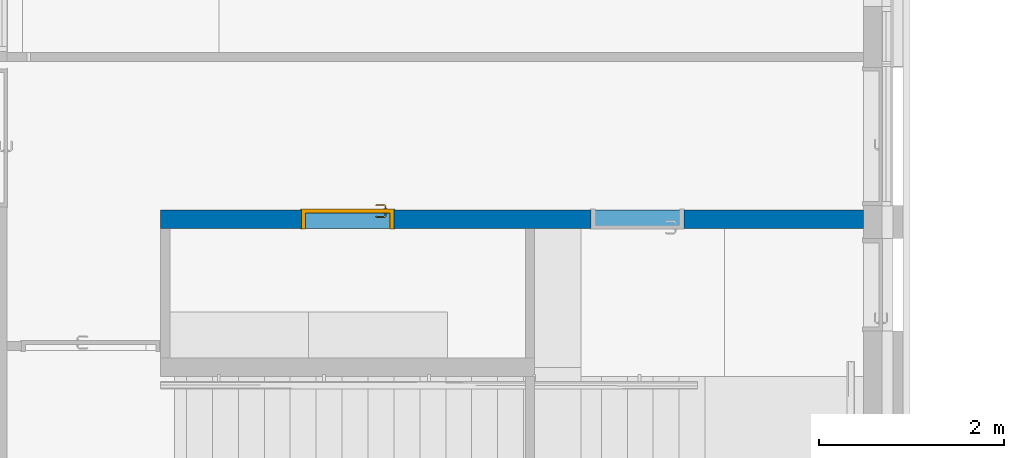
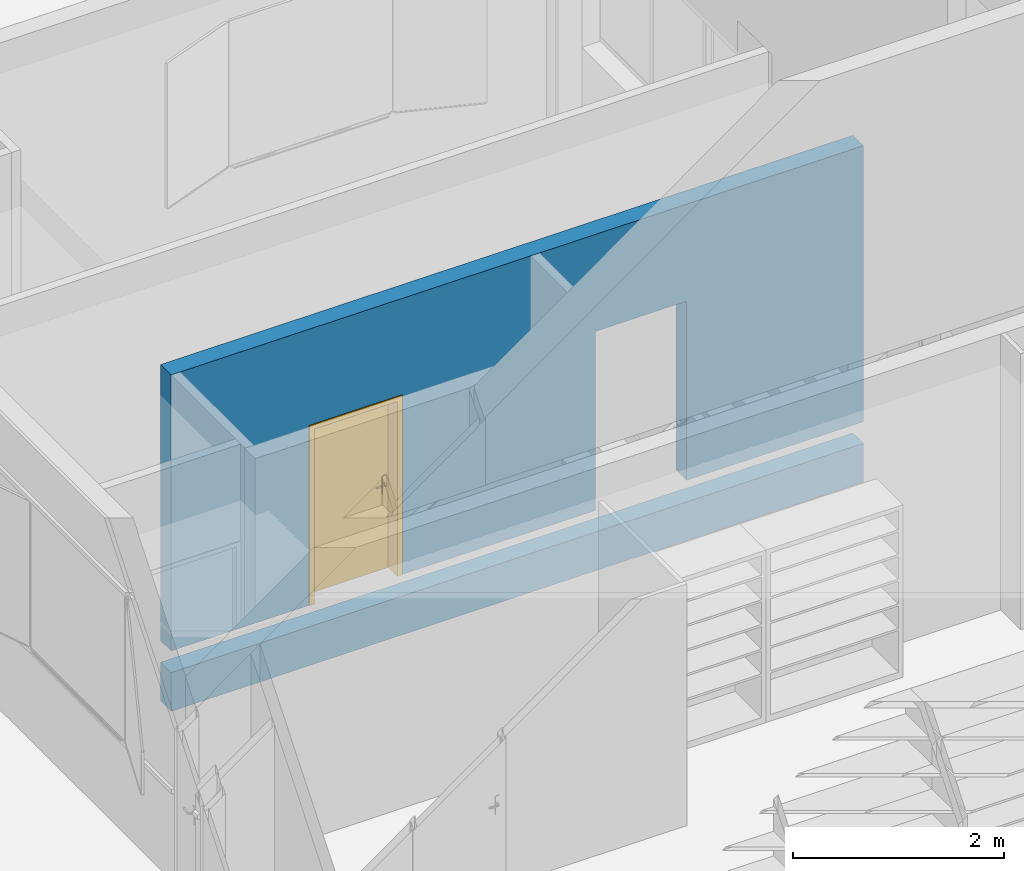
# One storey, part 77 of 137: 1 door, 1 wall, 2 openings.
"""IFC2X3 building model written with IfcOpenShell, lengths in centimetres."""

import ifcopenshell
import ifcopenshell.guid

model = None  # the IFC model being written
_history = None  # IfcOwnerHistory: only IFC2X3 demands one
_inside = {}  # id of a spatial element -> (the spatial element, [elements in it])
_under = {}  # id of a project, library or spatial element -> (it, [spatial elements below it])
_declared = {}  # id of a project -> (the project, [libraries it declares])
_typed = {}  # id of a type object -> (the type object, [elements of that type])
_made_of = {}  # id of a material, layer set ... -> (it, [elements and type objects made of it])


def new_model(schema):
    """Start an empty IFC model of exactly this schema.

    Asked for "IFC4X3", IfcOpenShell would pick the latest addendum, in which some entities
    have other attributes; the version numbers below select the first issue.
    IFC2X3 requires an IfcOwnerHistory on every rooted entity: one is made here for all.
    """
    global model, _history
    if schema == "IFC4X3":
        model = ifcopenshell.file(schema_version=(4, 3, 0, 0))
    else:
        model = ifcopenshell.file(schema=schema)
    _inside.clear()
    _under.clear()
    _declared.clear()
    _typed.clear()
    _made_of.clear()
    _history = None
    if model.schema == "IFC2X3":
        org = make("IfcOrganization", Name="unknown")
        user = make(
            "IfcPersonAndOrganization",
            ThePerson=make("IfcPerson", FamilyName="unknown"),
            TheOrganization=org,
        )
        app = make(
            "IfcApplication",
            ApplicationDeveloper=org,
            Version="unknown",
            ApplicationFullName="unknown",
            ApplicationIdentifier="unknown",
        )
        _history = make(
            "IfcOwnerHistory",
            OwningUser=user,
            OwningApplication=app,
            ChangeAction="ADDED",
            CreationDate=0,
        )
    return model


def make(cls, **values):
    """One entity of the class cls with the attributes given. An attribute that is None is left unset."""
    return model.create_entity(
        cls, **{name: value for name, value in values.items() if value is not None}
    )


def entity(cls, *values):
    """Any entity or typed value of the class cls, its attributes in the order of the schema. None: left unset."""
    e = model.create_entity(cls)
    for i, value in enumerate(values):
        if value is not None:
            e[i] = value
    return e


def rooted(cls, **values):
    """An entity with a GlobalId (a new one), such as an element, a storey or a relation."""
    return make(cls, GlobalId=ifcopenshell.guid.new(), OwnerHistory=_history, **values)


def si_unit(unit_type, name, prefix=None):
    """IfcSIUnit, for example si_unit("LENGTHUNIT", "METRE", prefix="MILLI")."""
    return make("IfcSIUnit", UnitType=unit_type, Prefix=prefix, Name=name)


def converted_unit(unit_type, name, factor, base, dimensions=None, offset=None):
    """IfcConversionBasedUnit, such as the inch: factor (a typed value) times the base unit."""
    return make(
        "IfcConversionBasedUnit"
        if offset is None
        else "IfcConversionBasedUnitWithOffset",
        ConversionOffset=offset,
        Dimensions=None
        if dimensions is None
        else entity("IfcDimensionalExponents", *dimensions),
        UnitType=unit_type,
        Name=name,
        ConversionFactor=make(
            "IfcMeasureWithUnit", ValueComponent=factor, UnitComponent=base
        ),
    )


def derived_unit(unit_type, elements):
    """IfcDerivedUnit: a product of units, each with its exponent."""
    return make(
        "IfcDerivedUnit",
        Elements=[
            make("IfcDerivedUnitElement", Unit=unit, Exponent=power)
            for unit, power in elements
        ],
        UnitType=unit_type,
    )


def assignment(units):
    """IfcUnitAssignment: the units of a project."""
    return None if units is None else make("IfcUnitAssignment", Units=units)


def point(xyz):
    """IfcCartesianPoint."""
    return None if xyz is None else make("IfcCartesianPoint", Coordinates=xyz)


def direction(xyz):
    """IfcDirection."""
    return None if xyz is None else make("IfcDirection", DirectionRatios=xyz)


def frame(location, z_axis=None, x_axis=None):
    """IfcAxis2Placement3D, a coordinate frame: its origin and axes. An axis left out is left unset."""
    return make(
        "IfcAxis2Placement3D",
        Location=point(location),
        Axis=direction(z_axis),
        RefDirection=direction(x_axis),
    )


def frame_2d(location, x_axis=None):
    """IfcAxis2Placement2D, a coordinate frame in the plane: its origin and x axis."""
    return make(
        "IfcAxis2Placement2D", Location=point(location), RefDirection=direction(x_axis)
    )


def origin():
    """The frame at (0, 0, 0) with its axes left unset."""
    return frame((0.0, 0.0, 0.0))


def place(relative_to, where):
    """IfcLocalPlacement: puts the frame where relative to a parent placement (None: the world)."""
    return make(
        "IfcLocalPlacement", PlacementRelTo=relative_to, RelativePlacement=where
    )


def context(
    kind, dimensions, precision=None, world=None, true_north=None, identifier=None
):
    """IfcGeometricRepresentationContext, for example the 3D "Model" context."""
    return make(
        "IfcGeometricRepresentationContext",
        ContextIdentifier=identifier,
        ContextType=kind,
        CoordinateSpaceDimension=dimensions,
        Precision=precision,
        WorldCoordinateSystem=world,
        TrueNorth=true_north,
    )


def subcontext(parent, identifier, kind, view, scale=None):
    """IfcGeometricRepresentationSubContext, for example "Body" below "Model"."""
    return make(
        "IfcGeometricRepresentationSubContext",
        ContextIdentifier=identifier,
        ContextType=kind,
        ParentContext=parent,
        TargetScale=scale,
        TargetView=view,
    )


def project(units=None, contexts=None):
    """IfcProject with its units and contexts."""
    return rooted(
        "IfcProject",
        Name="project",
        RepresentationContexts=contexts,
        UnitsInContext=assignment(units),
    )


def spatial(cls, under=None, at=None, **own):
    """A site, building, storey or space (cls), placed at a placement, below another one or the project."""
    s = rooted(cls, ObjectPlacement=at, **own)
    if under is not None:
        _under.setdefault(under.id(), (under, []))[1].append(s)
    return s


def profile(cls, at=None, kind="AREA", **sizes):
    """A parametric profile (cls). Its sizes go by their IFC names, for example OverallWidth=200.0."""
    return make(cls, ProfileType=kind, Position=at, **sizes)


def rectangle(**sizes):
    """IfcRectangleProfileDef."""
    return profile("IfcRectangleProfileDef", **sizes)


def extrude(swept, where, along, depth):
    """IfcExtrudedAreaSolid: the profile swept, set in the frame where, extruded along a direction by depth."""
    return make(
        "IfcExtrudedAreaSolid",
        SweptArea=swept,
        Position=where,
        ExtrudedDirection=direction(along),
        Depth=depth,
    )


def faces_of(points, faces, orient=None, outer=None):
    """IfcFace entities. A face is a list of loops; a loop is a list of indices into points, from 0.

    orient and outer hold one flag for each loop. By default every Orientation is true, the
    first loop of a face is its IfcFaceOuterBound and the others are IfcFaceBound.
    """
    made = []
    for i, loops in enumerate(faces):
        bounds = []
        for j, loop in enumerate(loops):
            is_outer = j == 0 if outer is None else outer[i][j]
            bounds.append(
                make(
                    "IfcFaceOuterBound" if is_outer else "IfcFaceBound",
                    Bound=make("IfcPolyLoop", Polygon=[points[k] for k in loop]),
                    Orientation=True if orient is None else orient[i][j],
                )
            )
        made.append(make("IfcFace", Bounds=bounds))
    return made


def faceted_brep(points, faces, orient=None, outer=None, voids=None):
    """IfcFacetedBrep: a solid bounded by flat faces; with voids (closed shells), ...WithVoids."""
    shared = [point(p) for p in points]
    hull = make("IfcClosedShell", CfsFaces=faces_of(shared, faces, orient, outer))
    if voids is None:
        return make("IfcFacetedBrep", Outer=hull)
    return make(
        "IfcFacetedBrepWithVoids",
        Outer=hull,
        Voids=[
            make(cls, CfsFaces=faces_of(shared, fs, o, b)) for cls, fs, o, b in voids
        ],
    )


def shape(context_of_items, identifier, shape_type, items):
    """IfcShapeRepresentation: the items that make up one representation, for example the "Body"."""
    return make(
        "IfcShapeRepresentation",
        ContextOfItems=context_of_items,
        RepresentationIdentifier=identifier,
        RepresentationType=shape_type,
        Items=items,
    )


def source(mapping_origin, context_of_items, identifier, shape_type, items):
    """IfcRepresentationMap: a shape defined once, which mapped items show again and again."""
    return make(
        "IfcRepresentationMap",
        MappingOrigin=mapping_origin,
        MappedRepresentation=shape(context_of_items, identifier, shape_type, items),
    )


def transform(
    local_origin,
    x_axis=None,
    y_axis=None,
    z_axis=None,
    scale=None,
    scale2=None,
    scale3=None,
    uniform=True,
):
    """IfcCartesianTransformationOperator3D, or its non-uniform kind. x_axis, y_axis, z_axis: its Axis1, 2, 3."""
    if uniform:
        return make(
            "IfcCartesianTransformationOperator3D",
            Axis1=direction(x_axis),
            Axis2=direction(y_axis),
            LocalOrigin=point(local_origin),
            Scale=scale,
            Axis3=direction(z_axis),
        )
    return make(
        "IfcCartesianTransformationOperator3DnonUniform",
        Axis1=direction(x_axis),
        Axis2=direction(y_axis),
        LocalOrigin=point(local_origin),
        Scale=scale,
        Axis3=direction(z_axis),
        Scale2=scale2,
        Scale3=scale3,
    )


def mapped(mapping_source, mapping_target):
    """IfcMappedItem: shows the shape of a source again, moved by a transform."""
    return make(
        "IfcMappedItem", MappingSource=mapping_source, MappingTarget=mapping_target
    )


def material(Name=None, Category=None):
    """IfcMaterial."""
    return make("IfcMaterial", Name=Name, Category=Category)


def material_list(materials):
    """IfcMaterialList."""
    return make("IfcMaterialList", Materials=materials)


def layer(
    of_material, thickness, ventilated=None, Name=None, Category=None, Priority=None
):
    """IfcMaterialLayer: one layer of a wall or slab, of a material (None: an air gap)."""
    return make(
        "IfcMaterialLayer",
        Material=of_material,
        LayerThickness=thickness,
        IsVentilated=ventilated,
        Name=Name,
        Category=Category,
        Priority=Priority,
    )


def layer_set(layers, Name=None):
    """IfcMaterialLayerSet."""
    return make("IfcMaterialLayerSet", MaterialLayers=layers, LayerSetName=Name)


def made_of(thing, what):
    """Note that an element or type object is made of a material, layer set ...; save() writes the relation."""
    if what is not None:
        _made_of.setdefault(what.id(), (what, []))[1].append(thing)
    return thing


def type_object(cls, material=None, **own):
    """A type object (cls), such as IfcWallType, which elements share."""
    return made_of(rooted(cls, **own), material)


def type_shapes(of_type, sources):
    """Give a type object the sources (RepresentationMaps) that its elements show as mapped items."""
    of_type.RepresentationMaps = sources


def element(
    cls,
    number,
    at=None,
    inside=None,
    cuts=None,
    type_object=None,
    material=None,
    context=None,
    identifier="Body",
    shape_type=None,
    held_by="IfcProductDefinitionShape",
    body=None,
    shapes=None,
    **own,
):
    """One element of the class cls, such as IfcWall. Its Tag is "e" and its number.

    at: its placement. inside: the storey or other place that contains it. cuts: it is an
    opening in that element (IfcRelVoidsElement). A single representation is given by context,
    identifier, shape_type and body (its items); several are given by shapes. held_by: the class
    of the entity that holds the representations. save() writes the other relations.
    """
    e = rooted(cls, Tag="e%d" % number, ObjectPlacement=at, **own)
    if body is not None:
        shapes = [shape(context, identifier, shape_type, body)]
    if shapes is not None:
        e.Representation = make(held_by, Representations=shapes)
    if inside is not None:
        _inside.setdefault(inside.id(), (inside, []))[1].append(e)
    if cuts is not None:
        rooted(
            "IfcRelVoidsElement", RelatingBuildingElement=cuts, RelatedOpeningElement=e
        )
    if type_object is not None:
        _typed.setdefault(type_object.id(), (type_object, []))[1].append(e)
    return made_of(e, material)


def fill(opening, filler):
    """IfcRelFillsElement: the door or window that sits in an opening."""
    return rooted(
        "IfcRelFillsElement",
        RelatingOpeningElement=opening,
        RelatedBuildingElement=filler,
    )


def aggregate(whole, parts):
    """IfcRelAggregates: a whole, such as a stair, and the parts it consists of."""
    return rooted("IfcRelAggregates", RelatingObject=whole, RelatedObjects=parts)


def save(model, path):
    """Write the relations noted so far, then the file.

    IfcRelAggregates (storeys below a building ...), IfcRelContainedInSpatialStructure (elements
    in a storey), IfcRelDefinesByType, IfcRelAssociatesMaterial and IfcRelDeclares: one each for
    every whole, place, type object, material and project.
    """
    for whole, parts in _under.values():
        aggregate(whole, parts)
    for where, things in _inside.values():
        rooted(
            "IfcRelContainedInSpatialStructure",
            RelatedElements=things,
            RelatingStructure=where,
        )
    for kind, things in _typed.values():
        rooted("IfcRelDefinesByType", RelatedObjects=things, RelatingType=kind)
    for what, things in _made_of.values():
        rooted("IfcRelAssociatesMaterial", RelatedObjects=things, RelatingMaterial=what)
    for by, libraries in _declared.values():
        rooted("IfcRelDeclares", RelatingContext=by, RelatedDefinitions=libraries)
    model.write(path)


model = new_model("IFC2X3")

# Units and contexts
model_context = context("Model", 3, precision=0.001, world=origin(), true_north=direction((6.12303176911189e-17, 1.0)))
body_context = subcontext(model_context, "Body", "Model", "MODEL_VIEW")
ifc_project = project(units=[si_unit("LENGTHUNIT", "METRE", prefix="CENTI"), si_unit("AREAUNIT", "SQUARE_METRE"), si_unit("VOLUMEUNIT", "CUBIC_METRE"), converted_unit("PLANEANGLEUNIT", "DEGREE", entity("IfcRatioMeasure", 0.0174532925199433), si_unit("PLANEANGLEUNIT", "RADIAN"), dimensions=[0, 0, 0, 0, 0, 0, 0]), si_unit("MASSUNIT", "GRAM", prefix="KILO"), si_unit("TIMEUNIT", "SECOND"), si_unit("FREQUENCYUNIT", "HERTZ"), si_unit("THERMODYNAMICTEMPERATUREUNIT", "DEGREE_CELSIUS"), derived_unit("THERMALTRANSMITTANCEUNIT", [(si_unit("MASSUNIT", "GRAM", prefix="KILO"), 1), (si_unit("THERMODYNAMICTEMPERATUREUNIT", "KELVIN"), -1), (si_unit("TIMEUNIT", "SECOND"), -3)]), derived_unit("VOLUMETRICFLOWRATEUNIT", [(si_unit("LENGTHUNIT", "METRE"), 3), (si_unit("TIMEUNIT", "SECOND"), -1)]), si_unit("ELECTRICCURRENTUNIT", "AMPERE"), si_unit("ELECTRICVOLTAGEUNIT", "VOLT"), si_unit("POWERUNIT", "WATT"), si_unit("FORCEUNIT", "NEWTON", prefix="KILO"), si_unit("ILLUMINANCEUNIT", "LUX"), si_unit("LUMINOUSFLUXUNIT", "LUMEN"), si_unit("LUMINOUSINTENSITYUNIT", "CANDELA"), derived_unit("USERDEFINED", [(si_unit("MASSUNIT", "GRAM", prefix="KILO"), -1), (si_unit("LENGTHUNIT", "METRE"), -2), (si_unit("TIMEUNIT", "SECOND"), 3), (si_unit("LUMINOUSFLUXUNIT", "LUMEN"), 1)]), derived_unit("LINEARVELOCITYUNIT", [(si_unit("LENGTHUNIT", "METRE"), 1), (si_unit("TIMEUNIT", "SECOND"), -1)]), si_unit("PRESSUREUNIT", "PASCAL"), derived_unit("USERDEFINED", [(si_unit("LENGTHUNIT", "METRE"), -2), (si_unit("MASSUNIT", "GRAM", prefix="KILO"), 1), (si_unit("TIMEUNIT", "SECOND"), -2)])], contexts=[model_context])

# Site, building, storey
site_placement = place(None, frame((8.62739174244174, -249.285249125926, 0.0)))
site = spatial("IfcSite", under=ifc_project, at=site_placement, Name="Default", CompositionType="ELEMENT")
building_placement = place(site_placement, origin())
building = spatial("IfcBuilding", under=site, at=building_placement, CompositionType="ELEMENT")
storey_placement = place(building_placement, origin())
storey = spatial("IfcBuildingStorey", under=building, at=storey_placement, Name="RDC", CompositionType="ELEMENT", Elevation=-8.82465566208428e-11)

# Wall, openings, door
ifc_material_1 = material(Name="Béton, coulé sur place, gris")
ifc_layer = layer(ifc_material_1, 20.0)
ifc_layer_set = layer_set([ifc_layer], Name="Mur de base:BET 20")
wall_type = type_object("IfcWallType", Name="Mur de base:BET 20", PredefinedType="STANDARD", material=ifc_layer_set)
wall_placement = place(storey_placement, frame((3978.90482781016, 5027.98020814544, -70.0), z_axis=(0.0, 0.0, 1.0), x_axis=(-1.0, 0.0, 0.0)))
wall = element("IfcWall", 1, at=wall_placement, inside=storey, type_object=wall_type, Name="Mur de base:BET 20", ObjectType="Mur de base:BET 20", context=body_context, shape_type="Brep", body=[
    faceted_brep([(0.0, -10.0, 0.0), (759.0, -10.0, 0.0), (759.0, -10.0, 45.0), (0.0, -10.0, 45.0), (759.0, 10.0, 0.0), (0.0, 10.0, 0.0), (0.0, 10.0, 45.0), (759.0, 10.0, 45.0)], [[[0, 1, 2, 3]], [[4, 5, 6, 7]], [[1, 0, 5, 4]], [[5, 0, 3, 6]], [[3, 2, 7, 6]], [[1, 4, 7, 2]]]),
    faceted_brep([(0.0, -10.0, 390.0), (759.0, -10.0, 390.0), (759.0, 10.0, 390.0), (0.0, 10.0, 390.0), (759.0, -10.0, 70.0), (759.0, 10.0, 70.0), (607.0, -10.0, 277.499999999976), (607.0, 10.0, 277.499999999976), (607.0, 10.0, 70.0), (607.0, -10.0, 70.0), (507.0, -10.0, 277.499999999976), (507.0, 10.0, 277.499999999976), (507.0, -10.0, 70.0), (507.0, 10.0, 70.0), (294.0, -10.0, 277.499999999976), (294.0, 10.0, 277.499999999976), (294.0, 10.0, 70.0), (294.0, -10.0, 70.0), (194.0, -10.0, 277.499999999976), (194.0, 10.0, 277.499999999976), (194.0, -10.0, 70.0), (194.0, 10.0, 70.0), (0.0, -10.0, 70.0), (0.0, 10.0, 70.0)], [[[0, 1, 2, 3]], [[2, 1, 4, 5]], [[6, 7, 8, 9]], [[7, 6, 10, 11]], [[11, 10, 12, 13]], [[14, 15, 16, 17]], [[15, 14, 18, 19]], [[19, 18, 20, 21]], [[20, 22, 23, 21]], [[12, 17, 16, 13]], [[4, 9, 8, 5]], [[0, 3, 23, 22]], [[3, 2, 5, 8, 7, 11, 13, 16, 15, 19, 21, 23]], [[1, 0, 22, 20, 18, 14, 17, 12, 10, 6, 9, 4]]]),
])
opening_1_placement = place(wall_placement, frame((607.0, 10.0, 70.0)))
opening_1 = element("IfcOpeningElement", 2, at=opening_1_placement, cuts=wall, Name="Simple(R)_bois_mu:93 x 204 cm:1", ObjectType="Opening", context=body_context, shape_type="SweptSolid", body=[
    extrude(rectangle(XDim=207.499999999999, YDim=99.9999999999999, at=frame_2d((103.749999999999, 50.0), x_axis=(1.0, 0.0))), frame((0.0, 0.0, 0.0), z_axis=(0.0, -1.0, 0.0), x_axis=(0.0, 0.0, 1.0)), (0.0, 0.0, 1.0), 20.0),
])
opening_2_placement = place(wall_placement, frame((194.0, -10.0, 70.0)))
element("IfcOpeningElement", 3, at=opening_2_placement, cuts=wall, Name="Simple(R)_bois_mu:93 x 204 cm:1", ObjectType="Opening", context=body_context, shape_type="SweptSolid", body=[
    extrude(rectangle(XDim=207.499999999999, YDim=99.9999999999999, at=frame_2d((103.75, 50.0), x_axis=(1.0, 0.0))), frame((0.0, 0.0, 0.0), z_axis=(0.0, 1.0, 0.0), x_axis=(0.0, 0.0, 1.0)), (0.0, 0.0, 1.0), 20.0),
])
ifc_material_2 = material(Name="Porte - Poignée")
ifc_material_3 = material(Name="Porte - Cadre")
ifc_material_4 = material(Name="Porte - Panneau")
ifc_material_list_1 = material_list([ifc_material_2, ifc_material_3, ifc_material_4])
ifc_material_list_2 = material_list([ifc_material_2, ifc_material_3, ifc_material_4])
door_style = type_object("IfcDoorStyle", Name="93 x 204 cm", ConstructionType="NOTDEFINED", OperationType="SINGLE_SWING_RIGHT", ParameterTakesPrecedence=False, Sizeable=False, material=ifc_material_list_2)
shared_shape = source(origin(), body_context, "Body", "Brep", [
    faceted_brep([(8.79747013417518, 3.69999999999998, 100.778044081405), (8.3999999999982, 3.69999999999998, 100.699999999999), (8.39999999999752, 3.69999999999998, 99.2999999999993), (8.79747013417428, 3.69999999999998, 99.2219559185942), (9.20252986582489, 3.69999999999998, 99.2219559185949), (9.60000000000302, 3.69999999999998, 99.3000000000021), (9.60000000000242, 3.69999999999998, 100.699999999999), (9.2025298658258, 3.69999999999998, 100.778044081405), (9.60000000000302, 5.94852045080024, 99.3000000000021), (9.60000000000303, 5.94852045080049, 100.699999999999), (9.20252986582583, 6.1131579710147, 100.778044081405), (10.5838906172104, 7.49451872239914, 100.778044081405), (10.4161093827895, 7.89957845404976, 100.778044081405), (8.79747013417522, 6.2809392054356, 100.778044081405), (19.5684749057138, 6.84673156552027, 100.778044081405), (19.8548953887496, 7.13315204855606, 100.778044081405), (19.0884689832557, 7.89957845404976, 100.778044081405), (18.9206877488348, 7.49451872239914, 100.778044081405), (8.39999999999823, 6.44557672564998, 100.699999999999), (8.3999999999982, 6.44557672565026, 99.2999999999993), (8.79747013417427, 6.28093920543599, 99.2219559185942), (10.4161093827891, 7.8995784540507, 99.2219559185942), (10.58389061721, 7.49451872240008, 99.2219559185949), (9.20252986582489, 6.11315797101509, 99.2219559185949), (19.8548953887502, 7.13315204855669, 99.2219559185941), (19.5684749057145, 6.84673156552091, 99.2219559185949), (18.9206877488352, 7.49451872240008, 99.2219559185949), (19.088468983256, 7.8995784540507, 99.2219559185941), (10.7485281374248, 7.09704858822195, 99.3000000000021), (10.748528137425, 7.09704858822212, 100.699999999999), (10.2514718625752, 8.29704858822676, 100.699999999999), (10.2514718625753, 8.29704858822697, 99.2999999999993), (14.7522904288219, 7.09704858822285, 99.3000000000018), (18.7560502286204, 7.09704858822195, 99.3000000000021), (18.7560502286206, 7.09704858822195, 100.699999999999), (14.7522891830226, 7.09704858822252, 100.699999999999), (14.7522891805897, 7.71249275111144, 100.787811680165), (19.25310650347, 8.29704858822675, 100.699999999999), (15.2600577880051, 8.29704858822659, 100.699999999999), (19.2531065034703, 8.29704858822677, 99.2999999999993), (14.2445206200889, 8.29704858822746, 99.2999999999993), (14.7522892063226, 7.71249274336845, 99.2121883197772), (19.2874210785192, 6.56567773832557, 99.3000000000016), (20.1359492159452, 7.41420587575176, 99.2999999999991), (20.135949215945, 7.4142058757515, 100.699999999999), (19.287421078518, 6.5656777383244, 100.699999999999)], [[[0, 1, 2, 3, 4, 5, 6, 7]], [[6, 5, 8, 9]], [[9, 10, 7, 6]], [[10, 11, 12, 13, 0, 7]], [[14, 15, 16, 17]], [[13, 18, 1, 0]], [[2, 1, 18, 19]], [[19, 20, 3, 2]], [[20, 21, 22, 23, 4, 3]], [[24, 25, 26, 27]], [[23, 8, 5, 4]], [[9, 8, 28, 29]], [[29, 11, 10, 9]], [[12, 30, 18, 13]], [[19, 18, 30, 31]], [[31, 21, 20, 19]], [[22, 28, 8, 23]], [[29, 28, 32, 33, 34, 35]], [[11, 35, 36]], [[16, 37, 38]], [[30, 12, 38]], [[38, 12, 36]], [[36, 35, 17]], [[17, 16, 36]], [[35, 11, 29]], [[34, 17, 35]], [[11, 36, 12]], [[38, 36, 16]], [[31, 30, 38, 37, 39, 40]], [[40, 41, 21]], [[41, 40, 27]], [[21, 31, 40]], [[39, 27, 40]], [[41, 32, 22]], [[22, 21, 41]], [[26, 32, 41]], [[28, 22, 32]], [[32, 26, 33]], [[26, 41, 27]], [[42, 25, 24, 43, 44, 15, 14, 45]], [[34, 33, 42, 45]], [[45, 14, 17, 34]], [[15, 44, 37, 16]], [[39, 37, 44, 43]], [[43, 24, 27, 39]], [[25, 42, 33, 26]]]),
    faceted_brep([(8.79747013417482, -1.30000000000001, 100.778044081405), (9.20252986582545, -1.30000000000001, 100.778044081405), (9.6000000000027, -1.30000000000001, 100.699999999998), (9.60000000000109, -1.30000000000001, 99.3000000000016), (9.20252986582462, -1.30000000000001, 99.2219559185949), (8.79747013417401, -1.30000000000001, 99.2219559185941), (8.39999999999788, -1.30000000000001, 99.2999999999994), (8.39999999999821, -1.30000000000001, 100.699999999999), (8.39999999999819, -4.06509507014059, 100.699999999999), (8.7974701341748, -3.90045754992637, 100.778044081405), (10.402358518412, -5.50534593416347, 100.778044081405), (10.5701397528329, -5.10028620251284, 100.778044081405), (9.20252986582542, -3.73267631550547, 100.778044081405), (19.852181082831, -4.73891952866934, 100.778044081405), (19.5657605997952, -4.4524990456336, 100.778044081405), (18.9179734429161, -5.10028620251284, 100.778044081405), (19.085754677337, -5.50534593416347, 100.778044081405), (9.60000000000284, -3.56803879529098, 100.699999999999), (9.6000000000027, -3.56803879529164, 99.3000000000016), (9.20252986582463, -3.7326763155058, 99.2219559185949), (10.5701397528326, -5.10028620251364, 99.2219559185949), (10.4023585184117, -5.50534593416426, 99.2219559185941), (8.79747013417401, -3.9004575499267, 99.2219559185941), (19.5657605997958, -4.45249904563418, 99.2219559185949), (19.8521810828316, -4.73891952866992, 99.2219559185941), (19.0857546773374, -5.50534593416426, 99.2219559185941), (18.9179734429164, -5.10028620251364, 99.2219559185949), (8.39999999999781, -4.06509507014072, 99.2999999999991), (10.2377209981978, -5.90281606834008, 100.699999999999), (10.7347772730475, -4.70281606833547, 100.699999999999), (10.7347772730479, -4.70281606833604, 99.3000000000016), (10.2377209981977, -5.90281606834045, 99.2999999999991), (14.2307697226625, -5.90281606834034, 100.699999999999), (14.7440566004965, -5.31828027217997, 100.787811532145), (19.2503921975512, -5.90281606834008, 100.699999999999), (14.7440565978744, -4.70281606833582, 100.699999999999), (18.7533359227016, -4.70281606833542, 100.699999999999), (18.7533359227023, -4.70281606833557, 99.3000000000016), (14.7440563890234, -4.70281606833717, 99.3000000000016), (14.744056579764, -5.31828027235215, 99.2121884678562), (19.2503921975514, -5.90281606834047, 99.2999999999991), (15.2573433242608, -5.90281606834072, 99.2999999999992), (19.2847067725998, -4.1714452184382, 100.699999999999), (20.1332349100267, -5.01997335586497, 100.699999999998), (20.1332349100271, -5.01997335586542, 99.2999999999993), (19.2847067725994, -4.17144521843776, 99.3000000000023)], [[[0, 1, 2, 3, 4, 5, 6, 7]], [[8, 9, 0, 7]], [[9, 10, 11, 12, 1, 0]], [[13, 14, 15, 16]], [[12, 17, 2, 1]], [[3, 2, 17, 18]], [[18, 19, 4, 3]], [[19, 20, 21, 22, 5, 4]], [[23, 24, 25, 26]], [[22, 27, 6, 5]], [[7, 6, 27, 8]], [[28, 10, 9, 8]], [[11, 29, 17, 12]], [[18, 17, 29, 30]], [[30, 20, 19, 18]], [[21, 31, 27, 22]], [[8, 27, 31, 28]], [[32, 33, 10]], [[33, 32, 16]], [[10, 28, 32]], [[34, 16, 32]], [[33, 35, 11]], [[11, 10, 33]], [[15, 35, 33]], [[29, 11, 35]], [[35, 15, 36]], [[15, 33, 16]], [[30, 29, 35, 36, 37, 38]], [[20, 38, 39]], [[25, 40, 41]], [[31, 21, 41]], [[41, 21, 39]], [[39, 38, 26]], [[26, 25, 39]], [[38, 20, 30]], [[37, 26, 38]], [[20, 39, 21]], [[41, 39, 25]], [[28, 31, 41, 40, 34, 32]], [[42, 14, 13, 43, 44, 24, 23, 45]], [[43, 13, 16, 34]], [[14, 42, 36, 15]], [[37, 36, 42, 45]], [[45, 23, 26, 37]], [[24, 44, 40, 25]], [[34, 40, 44, 43]]]),
    faceted_brep([(10.03527618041, 3.19999999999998, 86.6003983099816), (11.0, 3.19999999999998, 87.0), (11.0, 3.19999999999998, 108.0), (10.03527618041, 3.19999999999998, 108.399601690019), (9.0, 3.19999999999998, 108.535898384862), (7.96472381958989, 3.19999999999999, 108.399601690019), (7.0, 3.19999999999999, 108.0), (7.0, 3.19999999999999, 87.0), (7.96472381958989, 3.19999999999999, 86.6003983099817), (9.0, 3.19999999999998, 86.4641016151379), (10.03527618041, 3.69999999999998, 108.399601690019), (11.0, 3.69999999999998, 108.0), (11.0, 3.69999999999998, 87.0), (10.03527618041, 3.69999999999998, 86.6003983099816), (9.0, 3.69999999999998, 86.4641016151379), (7.96472381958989, 3.69999999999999, 86.6003983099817), (7.0, 3.69999999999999, 87.0), (7.0, 3.69999999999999, 108.0), (7.96472381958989, 3.69999999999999, 108.399601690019), (9.0, 3.69999999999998, 108.535898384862)], [[[0, 1, 2, 3, 4, 5, 6, 7, 8, 9]], [[10, 11, 12, 13, 14, 15, 16, 17, 18, 19]], [[11, 10, 3, 2]], [[3, 10, 19, 4]], [[19, 18, 5, 4]], [[18, 17, 6, 5]], [[7, 6, 17, 16]], [[16, 15, 8, 7]], [[8, 15, 14, 9]], [[14, 13, 0, 9]], [[13, 12, 1, 0]], [[2, 1, 12, 11]]]),
    faceted_brep([(10.03527618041, -1.30000000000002, 86.6003983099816), (11.0, -1.30000000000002, 87.0), (11.0, -1.30000000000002, 108.0), (10.03527618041, -1.30000000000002, 108.399601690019), (9.0, -1.30000000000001, 108.535898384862), (7.9647238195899, -1.30000000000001, 108.399601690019), (7.0, -1.30000000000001, 108.0), (7.0, -1.30000000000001, 87.0), (7.96472381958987, -1.30000000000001, 86.6003983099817), (9.0, -1.30000000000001, 86.4641016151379), (10.03527618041, -0.800000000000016, 108.399601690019), (11.0, -0.800000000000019, 108.0), (11.0, -0.800000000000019, 87.0), (10.03527618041, -0.800000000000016, 86.6003983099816), (9.0, -0.800000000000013, 86.4641016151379), (7.96472381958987, -0.800000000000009, 86.6003983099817), (7.0, -0.800000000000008, 87.0), (7.0, -0.800000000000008, 108.0), (7.9647238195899, -0.800000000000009, 108.399601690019), (9.0, -0.800000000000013, 108.535898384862)], [[[0, 1, 2, 3, 4, 5, 6, 7, 8, 9]], [[10, 11, 12, 13, 14, 15, 16, 17, 18, 19]], [[16, 15, 8, 7]], [[8, 15, 14, 9]], [[14, 13, 0, 9]], [[13, 12, 1, 0]], [[2, 1, 12, 11]], [[11, 10, 3, 2]], [[3, 10, 19, 4]], [[19, 18, 5, 4]], [[18, 17, 6, 5]], [[7, 6, 17, 16]]]),
    faceted_brep([(0.0, 0.0, 0.0), (0.0, 20.0, 0.0), (-1.0, 20.0, 0.0), (-1.0, 20.8000000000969, 0.0), (4.49999999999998, 20.8000000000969, 0.0), (4.49999999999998, 3.2, 0.0), (3.49999999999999, 3.2, 0.0), (3.49999999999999, -0.799999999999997, 0.0), (-1.0, -0.799999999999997, 0.0), (-1.0, 0.0, 0.0), (0.0, 0.0, 207.499999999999), (0.0, 20.0, 207.499999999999), (100.0, 20.0, 207.499999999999), (100.0, 20.0, 0.0), (101.0, 20.0, 0.0), (101.0, 20.0, 208.499999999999), (-1.0, 20.0, 208.499999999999), (-1.0, 20.8000000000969, 208.499999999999), (101.0, 20.8000000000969, 208.499999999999), (101.0, 20.8000000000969, 0.0), (95.5, 20.8000000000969, 0.0), (95.5, 20.8000000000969, 203.0), (4.49999999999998, 20.8000000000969, 203.0), (4.49999999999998, 3.2, 203.0), (95.5, 3.2, 203.0), (95.5, 3.2, 0.0), (96.5, 3.2, 0.0), (96.5, 3.2, 204.0), (3.49999999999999, 3.2, 204.0), (3.49999999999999, -0.799999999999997, 204.0), (96.5, -0.799999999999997, 204.0), (96.5, -0.799999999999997, 0.0), (101.0, -0.799999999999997, 0.0), (101.0, -0.799999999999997, 208.499999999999), (-1.0, -0.799999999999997, 208.499999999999), (-1.0, 0.0, 208.499999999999), (101.0, 0.0, 208.499999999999), (101.0, 0.0, 0.0), (100.0, 0.0, 0.0), (100.0, 0.0, 207.499999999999)], [[[0, 1, 2, 3, 4, 5, 6, 7, 8, 9]], [[1, 0, 10, 11]], [[2, 1, 11, 12, 13, 14, 15, 16]], [[3, 2, 16, 17]], [[4, 3, 17, 18, 19, 20, 21, 22]], [[5, 4, 22, 23]], [[6, 5, 23, 24, 25, 26, 27, 28]], [[7, 6, 28, 29]], [[8, 7, 29, 30, 31, 32, 33, 34]], [[9, 8, 34, 35]], [[0, 9, 35, 36, 37, 38, 39, 10]], [[12, 39, 38, 13]], [[38, 37, 32, 31, 26, 25, 20, 19, 14, 13]], [[18, 15, 14, 19]], [[24, 21, 20, 25]], [[30, 27, 26, 31]], [[36, 33, 32, 37]], [[11, 10, 39, 12]], [[17, 16, 15, 18]], [[23, 22, 21, 24]], [[29, 28, 27, 30]], [[35, 34, 33, 36]]]),
    faceted_brep([(3.49999999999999, -0.799999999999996, 204.0), (3.49999999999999, -0.799999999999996, 0.0), (96.5, -0.799999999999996, 0.0), (96.5, -0.799999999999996, 204.0), (3.49999999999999, 3.2, 204.0), (96.5, 3.2, 204.0), (96.5, 3.2, 0.0), (3.49999999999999, 3.2, 0.0)], [[[0, 1, 2, 3]], [[4, 5, 6, 7]], [[1, 0, 4, 7]], [[2, 1, 7, 6]], [[3, 2, 6, 5]], [[0, 3, 5, 4]]]),
])
type_shapes(door_style, [shared_shape])
door_placement = place(opening_1_placement, frame((-100.0, -20.0, 0.0)))
door = element("IfcDoor", 4, at=door_placement, inside=storey, type_object=door_style, material=ifc_material_list_1, Name="Simple(R)_bois_mu:93 x 204 cm", ObjectType="93 x 204 cm", OverallHeight=207.499999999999, OverallWidth=99.9999999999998, context=body_context, shape_type="MappedRepresentation", body=[
    mapped(shared_shape, transform((0.0, 0.0, 0.0), scale=1.0)),
])
fill(opening_1, door)

save(model, "model.ifc")
